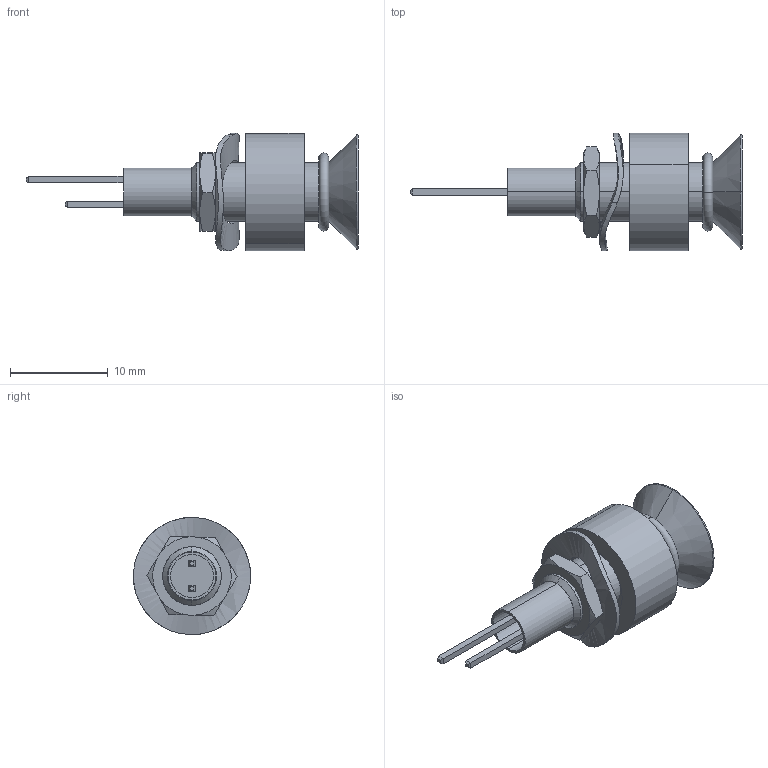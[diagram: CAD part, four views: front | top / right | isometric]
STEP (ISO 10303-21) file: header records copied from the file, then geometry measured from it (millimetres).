
FILE_DESCRIPTION (( 'STEP AP203' ), '1' );
FILE_NAME ('520series.STEP', '2016-04-12T12:04:11', ( '' ), ( '' ), 'SwSTEP 2.0', 'SolidWorks 2016', '' );
FILE_SCHEMA (( 'CONFIG_CONTROL_DESIGN' ));
Length unit declared in the file: millimetre
Products named in the file (9): M6SSCWASHER; COM2283_10mm; COM4990-A_Threaded; COM5017; ORING4; COM4990-B; COM2283_14mm; 7FD red; 520series
Assembly tree (8 placements, depth 2):
  520series
    COM2283_14mm
    COM4990-A_Threaded
    COM4990-B
    COM5017
    M6SSCWASHER
    ORING4
    COM2283_10mm
    7FD red
Bounding box: 34 x 12 x 12 mm (x, y, z)
Volume: 955.7 mm3; surface area: 2007.1 mm2
Topology: 8 solids, 8 shells, 99 faces, 212 edges, 130 vertices
Faces by surface type: plane 45, cylinder 24, cone 20, torus 8, bspline 2
Entity records: 3991 total; most frequent: CARTESIAN_POINT 886, DIRECTION 470, ORIENTED_EDGE 424, EDGE_CURVE 212, AXIS2_PLACEMENT_3D 182, VERTEX_POINT 130, EDGE_LOOP 110, VECTOR 106
